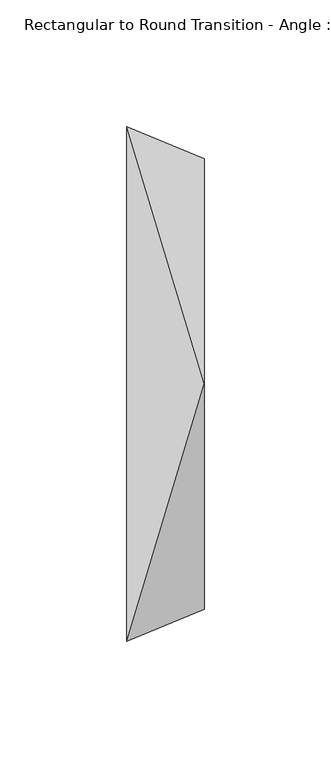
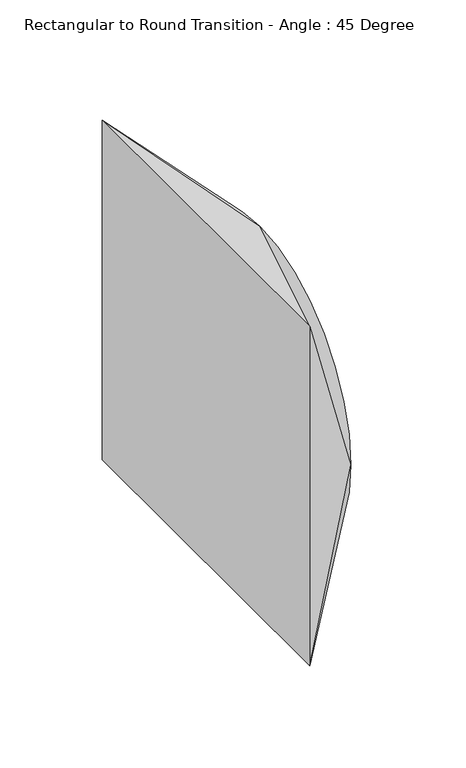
"""IFC4 building model written with IfcOpenShell, lengths in millimetres: duct fitting geometry, Rectangular to Round Transition - Angle : 45 Degree."""

from ifc_helpers import new_model, si_unit, frame, origin, place, context, project, spatial, circle_curve, source, transform, mapped, element, save
from ifc_brep_helpers import plane_surface, spline_surface, advanced_brep


def rectangular_to_round_transition_angle_45_degree_714b46fd(model_context):
    return source(origin(), model_context, "Body", "AdvancedBrep", [
        advanced_brep(
        [(30.6605122, 0.0, 88.9), (30.6605122, -88.9, 0.0), (30.6605122, 0.0, -88.9), (30.6605122, 88.9, 0.0), (0.0, 101.6, 101.6), (0.0, 101.6, -101.6), (0.0, -101.6, -101.6), (0.0, -101.6, 101.6)],
        [
            (0, 1, circle_curve(frame((30.6605122, 0.0, 0.0), z_axis=(1.0, 0.0, 0.0), x_axis=(0.0, -1.0, 0.0)), 88.9)),
            (1, 2, circle_curve(frame((30.6605122, 0.0, 0.0), z_axis=(1.0, 0.0, 0.0), x_axis=(0.0, -1.0, 0.0)), 88.9)),
            (2, 3, circle_curve(frame((30.6605122, 0.0, 0.0), z_axis=(1.0, 0.0, 0.0), x_axis=(0.0, -1.0, 0.0)), 88.9)),
            (3, 0, circle_curve(frame((30.6605122, 0.0, 0.0), z_axis=(1.0, 0.0, 0.0), x_axis=(0.0, -1.0, 0.0)), 88.9)),
            (4, 5),
            (5, 6),
            (6, 7),
            (7, 4),
            (3, 4),
            (4, 0),
            (3, 5),
            (2, 5),
            (2, 6),
            (1, 6),
            (1, 7),
            (0, 7),
        ],
        [
            plane_surface(frame((30.6605122, 0.0, 0.0), z_axis=(1.0, 0.0, 0.0), x_axis=(0.0, 0.0, -1.0))),
            plane_surface(frame((0.0, 0.0, 0.0), z_axis=(-1.0, 0.0, 0.0), x_axis=(0.0, 0.0, -1.0))),
            spline_surface(1, 2, [[(0.0, 101.6, 101.6), (0.0, 101.6, 101.6), (0.0, 101.6, 101.6)], [(30.6605122, 0.0, 88.9), (30.6605122, 88.9, 88.9), (30.6605122, 88.9, 0.0)]], [2, 2], [3, 3], [0.0, 1.0], [0.0, 1.0], weights=[[1.0, 0.7071067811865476, 1.0], [1.0, 0.7071067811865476, 1.0]]),
            plane_surface(frame((0.0, 101.6, 0.0), z_axis=(0.3826834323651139, 0.9238795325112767, 0.0), x_axis=(0.0, 0.0, -1.0))),
            spline_surface(1, 2, [[(0.0, 101.6, -101.6), (0.0, 101.6, -101.6), (0.0, 101.6, -101.6)], [(30.6605122, 88.9, 0.0), (30.6605122, 88.9, -88.9), (30.6605122, 0.0, -88.9)]], [2, 2], [3, 3], [0.0, 1.0], [0.0, 1.0], weights=[[1.0, 0.7071067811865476, 1.0], [1.0, 0.7071067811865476, 1.0]]),
            plane_surface(frame((0.0, 0.0, -101.6), z_axis=(0.3826834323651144, 0.0, -0.9238795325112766), x_axis=(0.0, -1.0, 0.0))),
            spline_surface(1, 2, [[(0.0, -101.6, -101.6), (0.0, -101.6, -101.6), (0.0, -101.6, -101.6)], [(30.6605122, 0.0, -88.9), (30.6605122, -88.9, -88.9), (30.6605122, -88.9, 0.0)]], [2, 2], [3, 3], [0.0, 1.0], [0.0, 1.0], weights=[[1.0, 0.7071067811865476, 1.0], [1.0, 0.7071067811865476, 1.0]]),
            plane_surface(frame((0.0, -101.6, 0.0), z_axis=(0.38268343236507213, -0.9238795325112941, 0.0), x_axis=(0.0, 0.0, 1.0))),
            spline_surface(1, 2, [[(0.0, -101.6, 101.6), (0.0, -101.6, 101.6), (0.0, -101.6, 101.6)], [(30.6605122, -88.9, 0.0), (30.6605122, -88.9, 88.9), (30.6605122, 0.0, 88.9)]], [2, 2], [3, 3], [0.0, 1.0], [0.0, 1.0], weights=[[1.0, 0.7071067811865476, 1.0], [1.0, 0.7071067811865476, 1.0]]),
            plane_surface(frame((0.0, 0.0, 101.6), z_axis=(0.38268343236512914, 0.0, 0.9238795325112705), x_axis=(0.0, 1.0, 0.0))),
        ],
        [
            (0, [[1, 2, 3, 4]]),
            (1, [[5, 6, 7, 8]]),
            (2, [[9, 10, -4]]),
            (3, [[-9, 11, -5]]),
            (4, [[12, -11, -3]]),
            (5, [[-12, 13, -6]]),
            (6, [[14, -13, -2]]),
            (7, [[-14, 15, -7]]),
            (8, [[16, -15, -1]]),
            (9, [[-16, -10, -8]]),
        ],
    ),
    ])


if __name__ == "__main__":
    model = new_model("IFC4")
    model_context = context("Model", 3, world=origin())
    ifc_project = project(units=[si_unit("LENGTHUNIT", "METRE", prefix="MILLI")], contexts=[model_context])
    site = spatial("IfcSite", under=ifc_project)
    building = spatial("IfcBuilding", under=site)
    placement = place(None, origin())
    rectangular_to_round_transition_angle_45_degree_shape = rectangular_to_round_transition_angle_45_degree_714b46fd(model_context)
    element("IfcDuctFitting", 1, ObjectType="Rectangular to Round Transition - Angle : 45 Degree", at=placement, inside=building, context=model_context, shape_type="MappedRepresentation", body=[
        mapped(rectangular_to_round_transition_angle_45_degree_shape, transform((0.0, 0.0, 0.0), x_axis=(1.0, 0.0, 0.0), y_axis=(0.0, 1.0, 0.0), z_axis=(0.0, 0.0, 1.0))),
    ])
    save(model, "model.ifc")
